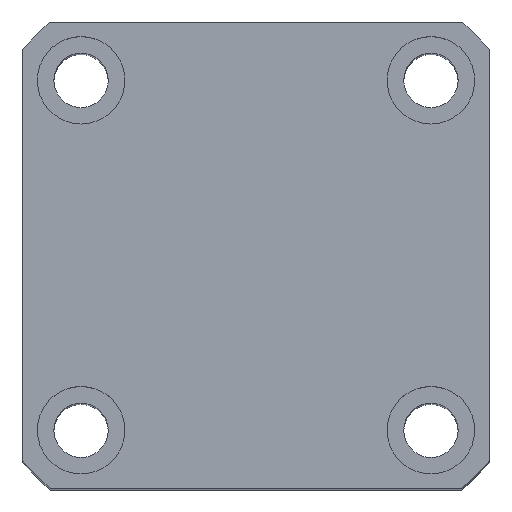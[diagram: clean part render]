
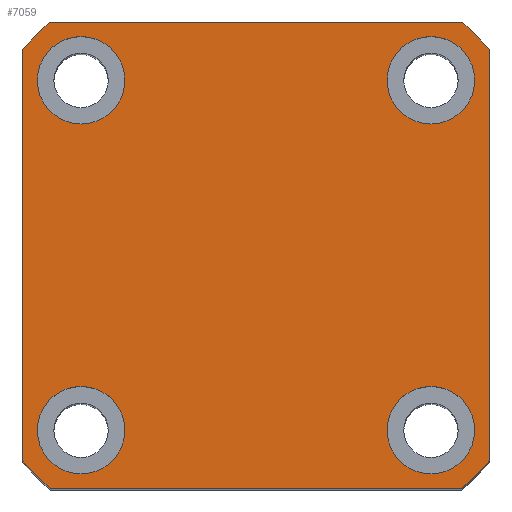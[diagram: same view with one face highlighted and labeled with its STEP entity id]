
A CAD part, top view. The second image highlights one B-rep face of the part: STEP entity #7059.
In plain terms, the highlighted planar face has unit normal (0, 0, 1) as drawn and (1, 0, 0) by its records, which use the part's own axes.
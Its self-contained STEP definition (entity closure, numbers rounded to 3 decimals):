
#39 = LINE ( 'NONE', #3907, #8680 ) ;
#80 = CARTESIAN_POINT ( 'NONE',  ( 90., -18., 22.5 ) ) ;
#106 = DIRECTION ( 'NONE',  ( 1., 0., 0. ) ) ;
#109 = DIRECTION ( 'NONE',  ( 0., 0., -1. ) ) ;
#136 = VERTEX_POINT ( 'NONE', #6417 ) ;
#205 = CIRCLE ( 'NONE', #2905, 4.5 ) ;
#454 = EDGE_CURVE ( 'NONE', #1926, #8838, #10273, .T. ) ;
#485 = AXIS2_PLACEMENT_3D ( 'NONE', #653, #6661, #1530 ) ;
#526 = VERTEX_POINT ( 'NONE', #3415 ) ;
#586 = AXIS2_PLACEMENT_3D ( 'NONE', #7561, #2541, #8293 ) ;
#653 = CARTESIAN_POINT ( 'NONE',  ( 90., -18., -18. ) ) ;
#760 = DIRECTION ( 'NONE',  ( 0., 0., -1. ) ) ;
#794 = ORIENTED_EDGE ( 'NONE', *, *, #9601, .T. ) ;
#810 = CARTESIAN_POINT ( 'NONE',  ( 90., -18., -13.5 ) ) ;
#893 = VERTEX_POINT ( 'NONE', #10687 ) ;
#968 = CARTESIAN_POINT ( 'NONE',  ( 90., 24., -24. ) ) ;
#1174 = CARTESIAN_POINT ( 'NONE',  ( 90., 18., 18. ) ) ;
#1223 = EDGE_LOOP ( 'NONE', ( #6110, #5577 ) ) ;
#1229 = VERTEX_POINT ( 'NONE', #5622 ) ;
#1234 = EDGE_LOOP ( 'NONE', ( #10061, #5980 ) ) ;
#1530 = DIRECTION ( 'NONE',  ( 0., 0., -1. ) ) ;
#1833 = CIRCLE ( 'NONE', #485, 4.5 ) ;
#1853 = PLANE ( 'NONE',  #4393 ) ;
#1926 = VERTEX_POINT ( 'NONE', #3380 ) ;
#1965 = VECTOR ( 'NONE', #6139, 1000. ) ;
#2007 = EDGE_CURVE ( 'NONE', #526, #893, #10623, .T. ) ;
#2049 = DIRECTION ( 'NONE',  ( 0., 0., -1. ) ) ;
#2058 = VERTEX_POINT ( 'NONE', #5051 ) ;
#2088 = CARTESIAN_POINT ( 'NONE',  ( 90., -21.166, -24. ) ) ;
#2236 = CARTESIAN_POINT ( 'NONE',  ( 90., 18., 22.5 ) ) ;
#2361 = CIRCLE ( 'NONE', #7012, 4.5 ) ;
#2457 = ORIENTED_EDGE ( 'NONE', *, *, #6481, .T. ) ;
#2541 = DIRECTION ( 'NONE',  ( 1., 0., 0. ) ) ;
#2576 = DIRECTION ( 'NONE',  ( 0., 0., -1. ) ) ;
#2726 = AXIS2_PLACEMENT_3D ( 'NONE', #10236, #2754, #2576 ) ;
#2754 = DIRECTION ( 'NONE',  ( 1., 0., 0. ) ) ;
#2850 = AXIS2_PLACEMENT_3D ( 'NONE', #3648, #9241, #4495 ) ;
#2867 = EDGE_LOOP ( 'NONE', ( #10682, #9068, #794, #5952, #4489, #6588, #2457, #9216 ) ) ;
#2905 = AXIS2_PLACEMENT_3D ( 'NONE', #1174, #7130, #2049 ) ;
#3064 = CARTESIAN_POINT ( 'NONE',  ( 90., -18., -22.5 ) ) ;
#3205 = CARTESIAN_POINT ( 'NONE',  ( 90., 0., 0. ) ) ;
#3222 = CIRCLE ( 'NONE', #5389, 4.5 ) ;
#3380 = CARTESIAN_POINT ( 'NONE',  ( 90., 21.166, -24. ) ) ;
#3415 = CARTESIAN_POINT ( 'NONE',  ( 90., 24., 21.166 ) ) ;
#3588 = AXIS2_PLACEMENT_3D ( 'NONE', #8442, #3591, #9196 ) ;
#3591 = DIRECTION ( 'NONE',  ( 1., 0., 0. ) ) ;
#3648 = CARTESIAN_POINT ( 'NONE',  ( 90., -18., 18. ) ) ;
#3717 = EDGE_CURVE ( 'NONE', #10193, #3865, #9384, .T. ) ;
#3784 = DIRECTION ( 'NONE',  ( 1., 0., 0. ) ) ;
#3864 = CARTESIAN_POINT ( 'NONE',  ( 90., -21.166, 24. ) ) ;
#3865 = VERTEX_POINT ( 'NONE', #9719 ) ;
#3878 = DIRECTION ( 'NONE',  ( 0., 0., -1. ) ) ;
#3899 = CARTESIAN_POINT ( 'NONE',  ( 90., 0., 0. ) ) ;
#3907 = CARTESIAN_POINT ( 'NONE',  ( 90., 24., 24. ) ) ;
#3912 = DIRECTION ( 'NONE',  ( 1., 0., 0. ) ) ;
#4019 = LINE ( 'NONE', #5099, #6021 ) ;
#4062 = DIRECTION ( 'NONE',  ( 0., 0., -1. ) ) ;
#4393 = AXIS2_PLACEMENT_3D ( 'NONE', #5346, #106, #6176 ) ;
#4489 = ORIENTED_EDGE ( 'NONE', *, *, #9277, .T. ) ;
#4491 = EDGE_CURVE ( 'NONE', #10678, #2058, #205, .T. ) ;
#4495 = DIRECTION ( 'NONE',  ( 0., 0., -1. ) ) ;
#4546 = FACE_BOUND ( 'NONE', #1223, .T. ) ;
#4655 = ORIENTED_EDGE ( 'NONE', *, *, #6965, .F. ) ;
#4803 = EDGE_CURVE ( 'NONE', #9614, #1229, #3222, .T. ) ;
#4842 = AXIS2_PLACEMENT_3D ( 'NONE', #3899, #3912, #3878 ) ;
#5051 = CARTESIAN_POINT ( 'NONE',  ( 90., 18., 13.5 ) ) ;
#5099 = CARTESIAN_POINT ( 'NONE',  ( 90., 24., 24. ) ) ;
#5346 = CARTESIAN_POINT ( 'NONE',  ( 90., 0., 0. ) ) ;
#5348 = DIRECTION ( 'NONE',  ( 1., 0., 0. ) ) ;
#5389 = AXIS2_PLACEMENT_3D ( 'NONE', #10001, #5348, #109 ) ;
#5577 = ORIENTED_EDGE ( 'NONE', *, *, #10037, .F. ) ;
#5595 = AXIS2_PLACEMENT_3D ( 'NONE', #3205, #8869, #4062 ) ;
#5622 = CARTESIAN_POINT ( 'NONE',  ( 90., 18., -13.5 ) ) ;
#5634 = DIRECTION ( 'NONE',  ( 0., 0., 1. ) ) ;
#5881 = EDGE_CURVE ( 'NONE', #8772, #7337, #7630, .T. ) ;
#5948 = DIRECTION ( 'NONE',  ( 1., 0., 0. ) ) ;
#5951 = DIRECTION ( 'NONE',  ( 0., -1., 0. ) ) ;
#5952 = ORIENTED_EDGE ( 'NONE', *, *, #2007, .T. ) ;
#5980 = ORIENTED_EDGE ( 'NONE', *, *, #8702, .F. ) ;
#6021 = VECTOR ( 'NONE', #5951, 1000. ) ;
#6070 = CARTESIAN_POINT ( 'NONE',  ( 90., 24., -21.166 ) ) ;
#6110 = ORIENTED_EDGE ( 'NONE', *, *, #9817, .F. ) ;
#6139 = DIRECTION ( 'NONE',  ( 0., 1., 0. ) ) ;
#6176 = DIRECTION ( 'NONE',  ( 0., 0., -1. ) ) ;
#6230 = VERTEX_POINT ( 'NONE', #2088 ) ;
#6261 = FACE_OUTER_BOUND ( 'NONE', #2867, .T. ) ;
#6328 = EDGE_CURVE ( 'NONE', #7570, #6230, #7030, .T. ) ;
#6417 = CARTESIAN_POINT ( 'NONE',  ( 90., -18., 13.5 ) ) ;
#6481 = EDGE_CURVE ( 'NONE', #3865, #7570, #8302, .T. ) ;
#6588 = ORIENTED_EDGE ( 'NONE', *, *, #3717, .T. ) ;
#6607 = ORIENTED_EDGE ( 'NONE', *, *, #6814, .F. ) ;
#6661 = DIRECTION ( 'NONE',  ( 1., 0., 0. ) ) ;
#6714 = DIRECTION ( 'NONE',  ( 0., 0., -1. ) ) ;
#6715 = AXIS2_PLACEMENT_3D ( 'NONE', #6781, #6747, #6714 ) ;
#6747 = DIRECTION ( 'NONE',  ( 1., 0., 0. ) ) ;
#6781 = CARTESIAN_POINT ( 'NONE',  ( 90., 0., 0. ) ) ;
#6814 = EDGE_CURVE ( 'NONE', #2058, #10678, #2361, .T. ) ;
#6965 = EDGE_CURVE ( 'NONE', #7337, #8772, #1833, .T. ) ;
#7012 = AXIS2_PLACEMENT_3D ( 'NONE', #8610, #3784, #9376 ) ;
#7030 = CIRCLE ( 'NONE', #5595, 32. ) ;
#7035 = EDGE_CURVE ( 'NONE', #6230, #1926, #10607, .T. ) ;
#7059 = ADVANCED_FACE ( 'NONE', ( #8295, #4546, #8547, #10354, #6261 ), #1853, .T. ) ;
#7130 = DIRECTION ( 'NONE',  ( 1., 0., 0. ) ) ;
#7337 = VERTEX_POINT ( 'NONE', #3064 ) ;
#7561 = CARTESIAN_POINT ( 'NONE',  ( 90., 18., -18. ) ) ;
#7570 = VERTEX_POINT ( 'NONE', #10686 ) ;
#7630 = CIRCLE ( 'NONE', #3588, 4.5 ) ;
#7693 = EDGE_LOOP ( 'NONE', ( #4655, #9088 ) ) ;
#7976 = CIRCLE ( 'NONE', #10080, 4.5 ) ;
#7977 = CARTESIAN_POINT ( 'NONE',  ( 90., 18., -22.5 ) ) ;
#8088 = VECTOR ( 'NONE', #9770, 1000. ) ;
#8293 = DIRECTION ( 'NONE',  ( 0., 0., -1. ) ) ;
#8295 = FACE_BOUND ( 'NONE', #7693, .T. ) ;
#8302 = LINE ( 'NONE', #10580, #8088 ) ;
#8442 = CARTESIAN_POINT ( 'NONE',  ( 90., -18., -18. ) ) ;
#8547 = FACE_BOUND ( 'NONE', #1234, .T. ) ;
#8610 = CARTESIAN_POINT ( 'NONE',  ( 90., 18., 18. ) ) ;
#8680 = VECTOR ( 'NONE', #5634, 1000. ) ;
#8702 = EDGE_CURVE ( 'NONE', #1229, #9614, #8911, .T. ) ;
#8772 = VERTEX_POINT ( 'NONE', #810 ) ;
#8838 = VERTEX_POINT ( 'NONE', #6070 ) ;
#8869 = DIRECTION ( 'NONE',  ( 1., 0., 0. ) ) ;
#8911 = CIRCLE ( 'NONE', #586, 4.5 ) ;
#9068 = ORIENTED_EDGE ( 'NONE', *, *, #454, .T. ) ;
#9088 = ORIENTED_EDGE ( 'NONE', *, *, #5881, .F. ) ;
#9196 = DIRECTION ( 'NONE',  ( 0., 0., -1. ) ) ;
#9216 = ORIENTED_EDGE ( 'NONE', *, *, #6328, .T. ) ;
#9241 = DIRECTION ( 'NONE',  ( 1., 0., 0. ) ) ;
#9262 = CIRCLE ( 'NONE', #2850, 4.5 ) ;
#9277 = EDGE_CURVE ( 'NONE', #893, #10193, #4019, .T. ) ;
#9376 = DIRECTION ( 'NONE',  ( 0., 0., -1. ) ) ;
#9384 = CIRCLE ( 'NONE', #6715, 32. ) ;
#9452 = EDGE_LOOP ( 'NONE', ( #6607, #10562 ) ) ;
#9601 = EDGE_CURVE ( 'NONE', #8838, #526, #39, .T. ) ;
#9614 = VERTEX_POINT ( 'NONE', #7977 ) ;
#9719 = CARTESIAN_POINT ( 'NONE',  ( 90., -24., 21.166 ) ) ;
#9770 = DIRECTION ( 'NONE',  ( 0., 0., -1. ) ) ;
#9817 = EDGE_CURVE ( 'NONE', #136, #10639, #7976, .T. ) ;
#10001 = CARTESIAN_POINT ( 'NONE',  ( 90., 18., -18. ) ) ;
#10037 = EDGE_CURVE ( 'NONE', #10639, #136, #9262, .T. ) ;
#10061 = ORIENTED_EDGE ( 'NONE', *, *, #4803, .F. ) ;
#10080 = AXIS2_PLACEMENT_3D ( 'NONE', #10592, #5948, #760 ) ;
#10193 = VERTEX_POINT ( 'NONE', #3864 ) ;
#10236 = CARTESIAN_POINT ( 'NONE',  ( 90., 0., 0. ) ) ;
#10273 = CIRCLE ( 'NONE', #2726, 32. ) ;
#10354 = FACE_BOUND ( 'NONE', #9452, .T. ) ;
#10562 = ORIENTED_EDGE ( 'NONE', *, *, #4491, .F. ) ;
#10580 = CARTESIAN_POINT ( 'NONE',  ( 90., -24., 24. ) ) ;
#10592 = CARTESIAN_POINT ( 'NONE',  ( 90., -18., 18. ) ) ;
#10607 = LINE ( 'NONE', #968, #1965 ) ;
#10623 = CIRCLE ( 'NONE', #4842, 32. ) ;
#10639 = VERTEX_POINT ( 'NONE', #80 ) ;
#10678 = VERTEX_POINT ( 'NONE', #2236 ) ;
#10682 = ORIENTED_EDGE ( 'NONE', *, *, #7035, .T. ) ;
#10686 = CARTESIAN_POINT ( 'NONE',  ( 90., -24., -21.166 ) ) ;
#10687 = CARTESIAN_POINT ( 'NONE',  ( 90., 21.166, 24. ) ) ;
